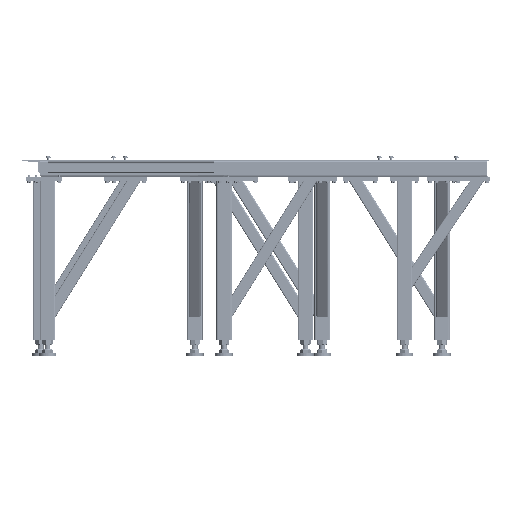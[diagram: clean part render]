
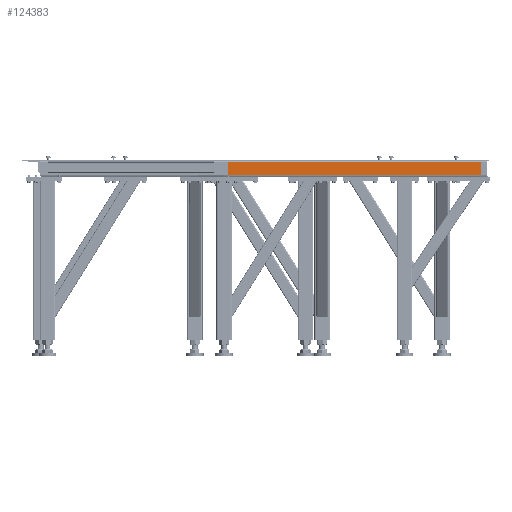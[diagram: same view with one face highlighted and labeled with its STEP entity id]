
A CAD part, left-side view. The second image highlights one B-rep face of the part: STEP entity #124383.
In plain terms, the highlighted planar face has unit normal (-1, 0, 0).
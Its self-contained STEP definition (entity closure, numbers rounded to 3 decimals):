
#5754 = CARTESIAN_POINT ( 'NONE',  ( -50066., -9181., -34. ) ) ;
#9708 = VERTEX_POINT ( 'NONE', #39303 ) ;
#13286 = ORIENTED_EDGE ( 'NONE', *, *, #70728, .F. ) ;
#19011 = AXIS2_PLACEMENT_3D ( 'NONE', #128099, #116327, #39097 ) ;
#20698 = CARTESIAN_POINT ( 'NONE',  ( -50066., -7911., 34. ) ) ;
#31566 = VECTOR ( 'NONE', #103605, 1000. ) ;
#33052 = EDGE_CURVE ( 'NONE', #9708, #79054, #141597, .T. ) ;
#37061 = CARTESIAN_POINT ( 'NONE',  ( -50066., -7911., -34. ) ) ;
#39097 = DIRECTION ( 'NONE',  ( 0., 0., -1. ) ) ;
#39303 = CARTESIAN_POINT ( 'NONE',  ( -50066., -9201., -34. ) ) ;
#42243 = VERTEX_POINT ( 'NONE', #37061 ) ;
#42931 = LINE ( 'NONE', #74685, #51602 ) ;
#43124 = ORIENTED_EDGE ( 'NONE', *, *, #33052, .T. ) ;
#49929 = CARTESIAN_POINT ( 'NONE',  ( -50066., -9201., 34. ) ) ;
#51602 = VECTOR ( 'NONE', #143085, 1000. ) ;
#52301 = VECTOR ( 'NONE', #136960, 1000. ) ;
#55782 = ORIENTED_EDGE ( 'NONE', *, *, #112118, .F. ) ;
#56987 = LINE ( 'NONE', #5754, #64009 ) ;
#60038 = CARTESIAN_POINT ( 'NONE',  ( -50066., -9181., 34. ) ) ;
#61202 = DIRECTION ( 'NONE',  ( 0., 1., 0. ) ) ;
#61977 = PLANE ( 'NONE',  #19011 ) ;
#64009 = VECTOR ( 'NONE', #61202, 1000. ) ;
#66047 = ORIENTED_EDGE ( 'NONE', *, *, #84258, .T. ) ;
#70728 = EDGE_CURVE ( 'NONE', #9708, #42243, #56987, .T. ) ;
#74685 = CARTESIAN_POINT ( 'NONE',  ( -50066., -7911., -34. ) ) ;
#79054 = VERTEX_POINT ( 'NONE', #49929 ) ;
#82316 = LINE ( 'NONE', #60038, #31566 ) ;
#84066 = VERTEX_POINT ( 'NONE', #20698 ) ;
#84258 = EDGE_CURVE ( 'NONE', #79054, #84066, #82316, .T. ) ;
#103605 = DIRECTION ( 'NONE',  ( 0., 1., 0. ) ) ;
#112118 = EDGE_CURVE ( 'NONE', #42243, #84066, #42931, .T. ) ;
#116327 = DIRECTION ( 'NONE',  ( 1., 0., 0. ) ) ;
#123291 = EDGE_LOOP ( 'NONE', ( #13286, #43124, #66047, #55782 ) ) ;
#124383 = ADVANCED_FACE ( 'NONE', ( #126352 ), #61977, .F. ) ;
#125682 = CARTESIAN_POINT ( 'NONE',  ( -50066., -9201., -34. ) ) ;
#126352 = FACE_OUTER_BOUND ( 'NONE', #123291, .T. ) ;
#128099 = CARTESIAN_POINT ( 'NONE',  ( -50066., -9181., -34. ) ) ;
#136960 = DIRECTION ( 'NONE',  ( 0., 0., 1. ) ) ;
#141597 = LINE ( 'NONE', #125682, #52301 ) ;
#143085 = DIRECTION ( 'NONE',  ( 0., 0., 1. ) ) ;
